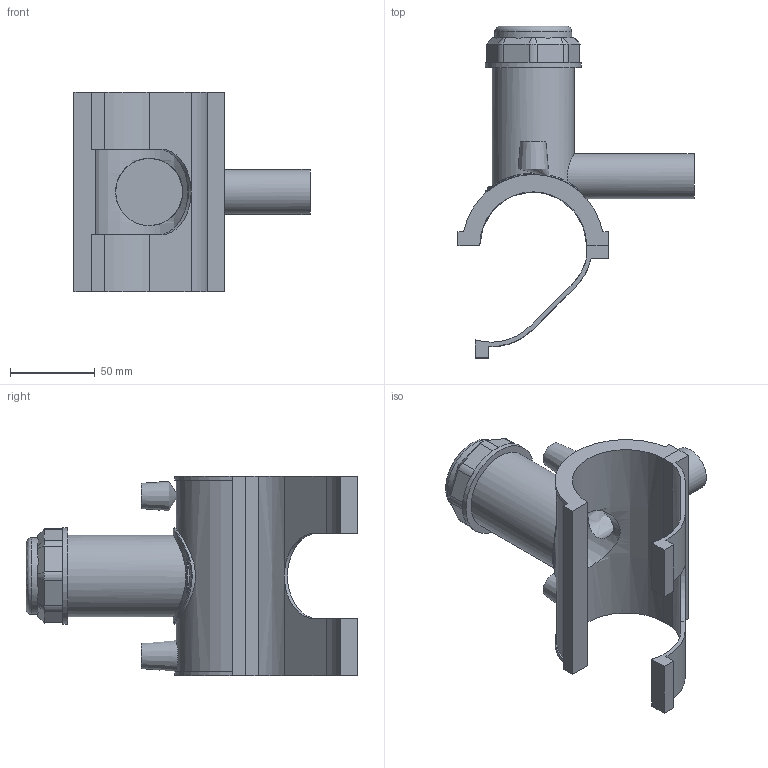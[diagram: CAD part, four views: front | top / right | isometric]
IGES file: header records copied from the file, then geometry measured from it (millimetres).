
Global section: file name: 5963BB03020007.ipt; native system: Autodesk Inventor 2019; preprocessor: unknown; author: KIM; date: 20210830.101339; units: millimetre
Bounding box: 139.45 x 195.95 x 118.11 mm (x, y, z)
Volume: 267106.4 mm3; surface area: 93579.8 mm2
Topology: 3 solids, 3 shells, 109 faces, 269 edges, 176 vertices
Faces by surface type: plane 64, cylinder 23, cone 11, revolution 10, bspline 1
Full cylindrical faces by diameter (mm): 4 x2, 26.6 x1, 45.432 x1, 48.272 x1, 56.79 x1
